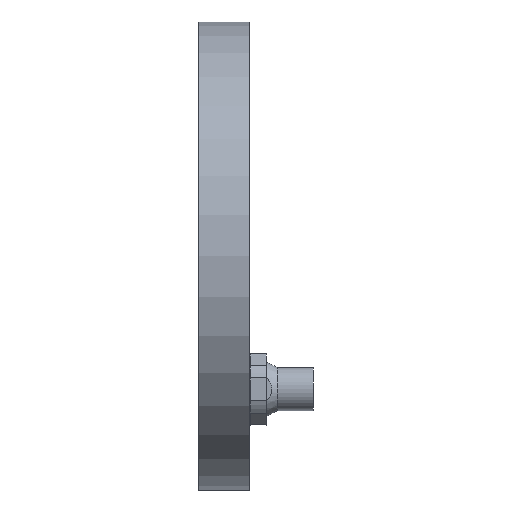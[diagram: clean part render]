
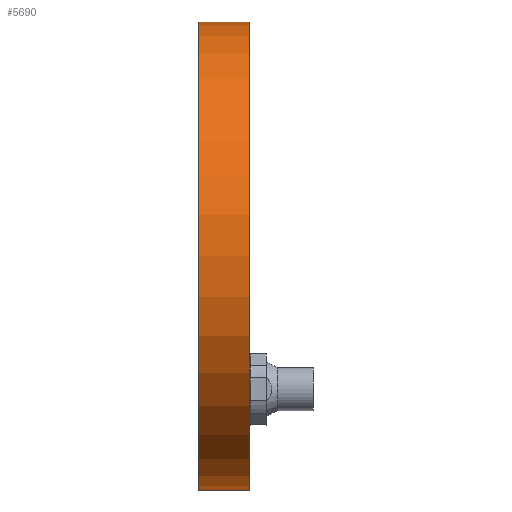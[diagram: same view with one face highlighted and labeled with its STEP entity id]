
A CAD part, left-side view. The second image highlights one B-rep face of the part: STEP entity #5690.
In plain terms, the highlighted cylindrical face has radius 65 mm (diameter 130 mm), a partial arc.
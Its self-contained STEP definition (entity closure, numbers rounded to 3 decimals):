
#37 = ORIENTED_EDGE ( 'NONE', *, *, #3137, .T. ) ;
#208 = CARTESIAN_POINT ( 'NONE',  ( 0., 0., 65. ) ) ;
#211 = CARTESIAN_POINT ( 'NONE',  ( 0., 0., 0. ) ) ;
#231 = DIRECTION ( 'NONE',  ( 0., 0., 1. ) ) ;
#251 = DIRECTION ( 'NONE',  ( 0., -1., 0. ) ) ;
#404 = DIRECTION ( 'NONE',  ( 0., -1., 0. ) ) ;
#722 = CARTESIAN_POINT ( 'NONE',  ( 0., 0., -65. ) ) ;
#802 = VERTEX_POINT ( 'NONE', #722 ) ;
#919 = CARTESIAN_POINT ( 'NONE',  ( 0., 14., 0. ) ) ;
#1023 = VERTEX_POINT ( 'NONE', #208 ) ;
#1933 = CIRCLE ( 'NONE', #8528, 65. ) ;
#2246 = CARTESIAN_POINT ( 'NONE',  ( 0., 14., 65. ) ) ;
#2419 = DIRECTION ( 'NONE',  ( 0., -1., 0. ) ) ;
#3137 = EDGE_CURVE ( 'NONE', #4837, #802, #7537, .T. ) ;
#3814 = EDGE_CURVE ( 'NONE', #7927, #1023, #6341, .T. ) ;
#3910 = AXIS2_PLACEMENT_3D ( 'NONE', #919, #251, #9048 ) ;
#3937 = CARTESIAN_POINT ( 'NONE',  ( 0., 14., 0. ) ) ;
#3976 = CARTESIAN_POINT ( 'NONE',  ( 0., 14., 65. ) ) ;
#4006 = DIRECTION ( 'NONE',  ( 0., 0., 1. ) ) ;
#4064 = CARTESIAN_POINT ( 'NONE',  ( 0., 14., -65. ) ) ;
#4235 = EDGE_CURVE ( 'NONE', #4837, #7927, #1933, .T. ) ;
#4489 = ORIENTED_EDGE ( 'NONE', *, *, #8869, .T. ) ;
#4640 = DIRECTION ( 'NONE',  ( 0., 1., 0. ) ) ;
#4837 = VERTEX_POINT ( 'NONE', #4064 ) ;
#4966 = CYLINDRICAL_SURFACE ( 'NONE', #3910, 65. ) ;
#5422 = FACE_OUTER_BOUND ( 'NONE', #8550, .T. ) ;
#5450 = VECTOR ( 'NONE', #2419, 1000. ) ;
#5690 = ADVANCED_FACE ( 'NONE', ( #5422 ), #4966, .T. ) ;
#5978 = ORIENTED_EDGE ( 'NONE', *, *, #4235, .F. ) ;
#6060 = DIRECTION ( 'NONE',  ( 0., 1., 0. ) ) ;
#6341 = LINE ( 'NONE', #3976, #7964 ) ;
#6602 = AXIS2_PLACEMENT_3D ( 'NONE', #211, #4640, #4006 ) ;
#6834 = CARTESIAN_POINT ( 'NONE',  ( 0., 14., -65. ) ) ;
#7537 = LINE ( 'NONE', #6834, #5450 ) ;
#7740 = ORIENTED_EDGE ( 'NONE', *, *, #3814, .F. ) ;
#7927 = VERTEX_POINT ( 'NONE', #2246 ) ;
#7964 = VECTOR ( 'NONE', #404, 1000. ) ;
#8389 = CIRCLE ( 'NONE', #6602, 65. ) ;
#8528 = AXIS2_PLACEMENT_3D ( 'NONE', #3937, #6060, #231 ) ;
#8550 = EDGE_LOOP ( 'NONE', ( #7740, #5978, #37, #4489 ) ) ;
#8869 = EDGE_CURVE ( 'NONE', #802, #1023, #8389, .T. ) ;
#9048 = DIRECTION ( 'NONE',  ( 0., 0., -1. ) ) ;
